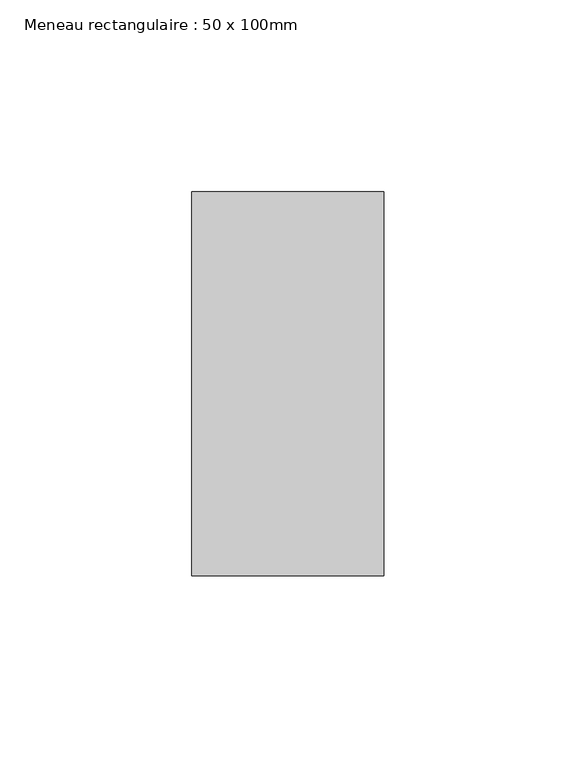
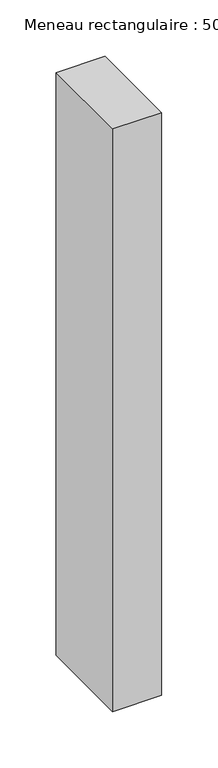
"""IFC4 building model written with IfcOpenShell, lengths in millimetres: member geometry, Meneau rectangulaire : 50 x 100mm."""

from ifc_helpers import new_model, si_unit, frame, origin, place, context, project, spatial, polyline, outline, extrude, source, transform, mapped, element, save


def meneau_rectangulaire_50_x_100mm_84950527(model_context):
    return source(origin(), model_context, "Body", "SweptSolid", [
        extrude(outline(polyline([(0.0, 50.0), (0.0, -50.0), (-50.0, -50.0), (-50.0, 50.0), (0.0, 50.0)])), frame((0.0, 0.0, -629.9294859), z_axis=(0.0, 0.0, 1.0), x_axis=(1.0, 0.0, 0.0)), (0.0, 0.0, 1.0), 629.9294859),
    ])


if __name__ == "__main__":
    model = new_model("IFC4")
    model_context = context("Model", 3, world=origin())
    ifc_project = project(units=[si_unit("LENGTHUNIT", "METRE", prefix="MILLI")], contexts=[model_context])
    site = spatial("IfcSite", under=ifc_project)
    building = spatial("IfcBuilding", under=site)
    placement = place(None, origin())
    meneau_rectangulaire_50_x_100mm_shape = meneau_rectangulaire_50_x_100mm_84950527(model_context)
    element("IfcMember", 1, ObjectType="Meneau rectangulaire : 50 x 100mm", at=placement, inside=building, context=model_context, shape_type="MappedRepresentation", body=[
        mapped(meneau_rectangulaire_50_x_100mm_shape, transform((0.0, 0.0, 0.0), x_axis=(1.0, 0.0, 0.0), y_axis=(0.0, 1.0, 0.0), z_axis=(0.0, 0.0, 1.0))),
    ])
    save(model, "model.ifc")
